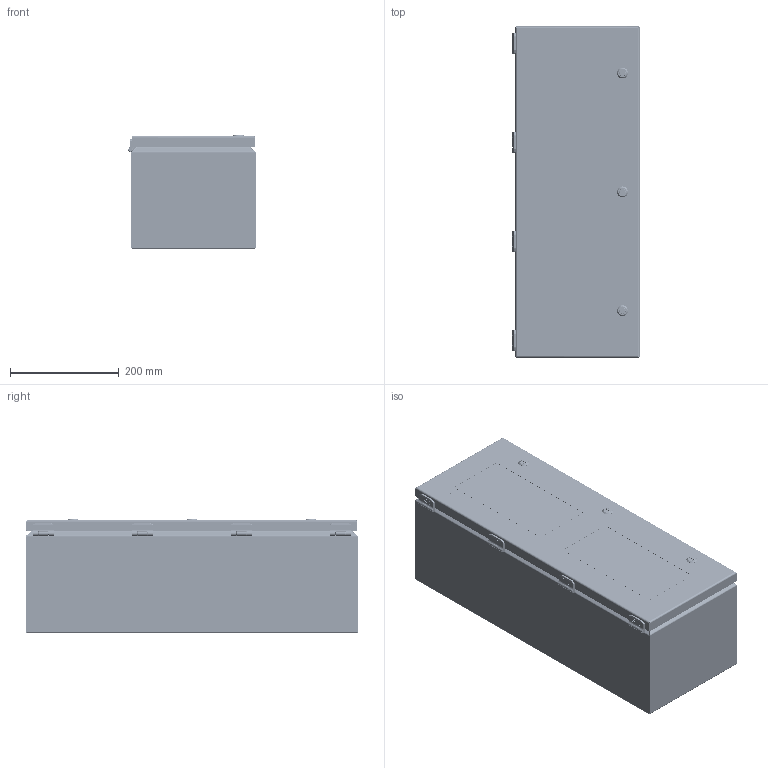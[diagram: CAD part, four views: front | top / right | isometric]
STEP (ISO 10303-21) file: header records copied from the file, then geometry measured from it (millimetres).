
FILE_DESCRIPTION((''),'2;1');
FILE_NAME('MODEL-097_ASM','2018-07-17T15:19:21',('richards'),('SAGINAW CONTROL & ENGINEERING'),'CREO PARAMETRIC BY PTC INC, 2017260','CREO PARAMETRIC BY PTC INC, 2017260','');
FILE_SCHEMA(('AUTOMOTIVE_DESIGN { 1 0 10303 214 1 1 1 1 }'));
Length unit declared in the file: inch
Products named in the file (29): MODEL-097-BDY; 112643-BOX-LEAF; 112643-BOX-LEAF-STUD; 112643-BOX_ASM; 112643-DOOR-LEAF; 112643-DOOR-LEAF-STUD; 112643-DOOR_ASM; 112643-PIN; 112643_ASM; 113152; MODEL-097-DR; 100097; 100012; 112987_SHAFT; 112987_INSERT; 112984; 112987_SCREW; 112987_NUT; 112987_ASM; MODEL-097-LEX; 118622; 117899; 118662; MODEL-097-GSKT; 120704; CH-ELJ_SUBPANEL; 102479; CH-ELJ_SUBPANEL-SUBASSEMBLY_ASM; MODEL-097_ASM
Assembly tree (73 placements, depth 4):
  MODEL-097_ASM
    MODEL-097-BDY
    112643_ASM  x4
      112643-BOX_ASM
        112643-BOX-LEAF
        112643-BOX-LEAF-STUD
      112643-DOOR_ASM
        112643-DOOR-LEAF
        112643-DOOR-LEAF-STUD
      112643-PIN
    113152  x8
    MODEL-097-DR
    100097  x2
    100012  x6
    112987_ASM  x3
      112987_SHAFT
      112987_INSERT
      112984
      112987_SCREW
      112987_NUT
    MODEL-097-LEX  x2
    118622  x8
    117899  x8
    118662  x8
    MODEL-097-GSKT
    120704
    CH-ELJ_SUBPANEL-SUBASSEMBLY_ASM
      CH-ELJ_SUBPANEL
      102479  x6
Bounding box: 234.2 x 609.7 x 210.71 mm (x, y, z)
Volume: 1637174.2 mm3; surface area: 1683851.1 mm2
Topology: 90 solids, 94 shells, 6178 faces, 15743 edges, 9694 vertices
Faces by surface type: plane 2134, cylinder 1822, bspline 1618, cone 292, torus 248, sphere 64
Entity records: 107561 total; most frequent: CARTESIAN_POINT 55876, ORIENTED_EDGE 7578, DIRECTION 6748, EDGE_CURVE 3789, PRESENTATION_STYLE_ASSIGNMENT 3357, STYLED_ITEM 3342, CURVE_STYLE 3060, AXIS2_PLACEMENT_3D 2505
